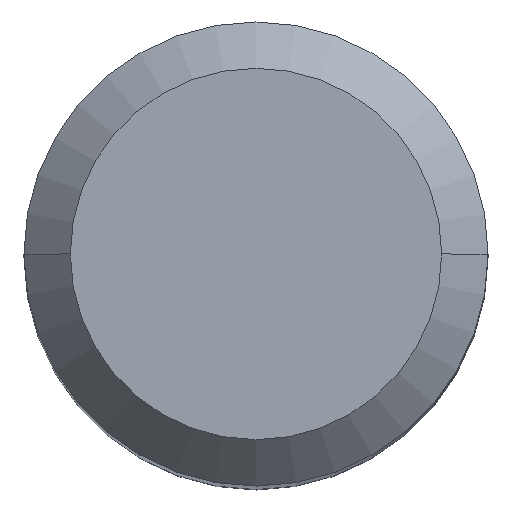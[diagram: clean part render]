
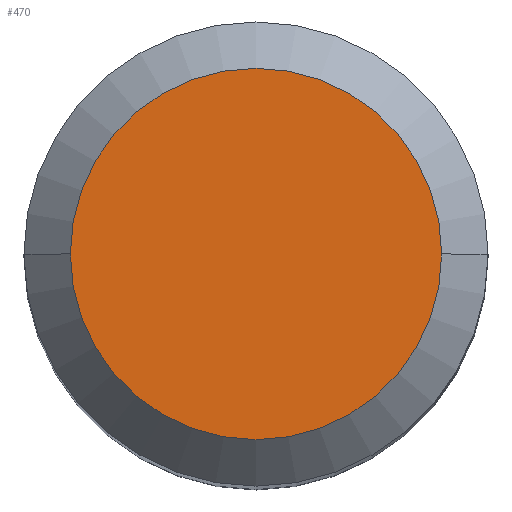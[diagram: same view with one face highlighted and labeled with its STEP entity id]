
A CAD part, top view. The second image highlights one B-rep face of the part: STEP entity #470.
In plain terms, the highlighted planar face has unit normal (0, 0, 1).
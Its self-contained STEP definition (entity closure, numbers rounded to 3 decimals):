
#1 = EDGE_LOOP ( 'NONE', ( #202, #365 ) ) ;
#6 = EDGE_CURVE ( 'NONE', #552, #508, #453, .T. ) ;
#72 = DIRECTION ( 'NONE',  ( 1., 0., 0. ) ) ;
#84 = CIRCLE ( 'NONE', #220, 4.8 ) ;
#90 = DIRECTION ( 'NONE',  ( -1., 0., 0. ) ) ;
#141 = DIRECTION ( 'NONE',  ( 0., 0., -1. ) ) ;
#182 = AXIS2_PLACEMENT_3D ( 'NONE', #505, #141, #275 ) ;
#195 = CARTESIAN_POINT ( 'NONE',  ( 0., 4.8, 0. ) ) ;
#199 = PLANE ( 'NONE',  #269 ) ;
#202 = ORIENTED_EDGE ( 'NONE', *, *, #555, .F. ) ;
#203 = DIRECTION ( 'NONE',  ( 0., 0., 1. ) ) ;
#220 = AXIS2_PLACEMENT_3D ( 'NONE', #534, #403, #90 ) ;
#269 = AXIS2_PLACEMENT_3D ( 'NONE', #195, #203, #72 ) ;
#275 = DIRECTION ( 'NONE',  ( -1., 0., 0. ) ) ;
#365 = ORIENTED_EDGE ( 'NONE', *, *, #6, .F. ) ;
#376 = CARTESIAN_POINT ( 'NONE',  ( -4.8, 0., 0. ) ) ;
#394 = FACE_OUTER_BOUND ( 'NONE', #1, .T. ) ;
#403 = DIRECTION ( 'NONE',  ( 0., 0., -1. ) ) ;
#453 = CIRCLE ( 'NONE', #182, 4.8 ) ;
#470 = ADVANCED_FACE ( 'NONE', ( #394 ), #199, .T. ) ;
#505 = CARTESIAN_POINT ( 'NONE',  ( 0., 0., 0. ) ) ;
#508 = VERTEX_POINT ( 'NONE', #376 ) ;
#534 = CARTESIAN_POINT ( 'NONE',  ( 0., 0., 0. ) ) ;
#536 = CARTESIAN_POINT ( 'NONE',  ( 4.8, 0., 0. ) ) ;
#552 = VERTEX_POINT ( 'NONE', #536 ) ;
#555 = EDGE_CURVE ( 'NONE', #508, #552, #84, .T. ) ;
